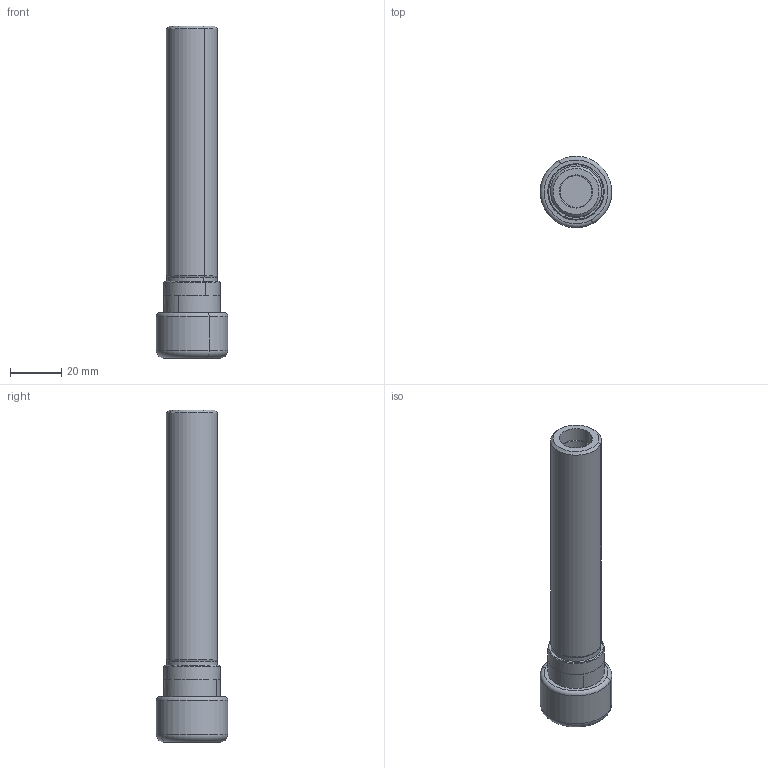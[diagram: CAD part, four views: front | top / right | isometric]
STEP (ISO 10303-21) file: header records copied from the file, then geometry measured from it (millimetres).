
FILE_DESCRIPTION(('CATIA V5 STEP','CAx-IF Rec.Pracs.--- Model Styling and Organization---1.2---2011-12-15'),'2;1');
FILE_NAME('\\nas01\drv1\utils\eitdev\rte\eit\transmagicconvert\db\out\635958952447655436\4502039 LM.stp','2016-04-10T11:27:39+00:00',('none'),('none'),'CATIA Version 5 Release 21 SP 5 (IN-10)','CATIA V5 STEP AP214','none');
FILE_SCHEMA(('AUTOMOTIVE_DESIGN { 1 0 10303 214 1 1 1 1 }'));
Length unit declared in the file: millimetre
Products named in the file (1): ST 20X100 ER16 F
Bounding box: 27.99 x 27.99 x 130 mm (x, y, z)
Volume: 39316 mm3; surface area: 11912 mm2
Topology: 1 solids, 1 shells, 44 faces, 89 edges, 52 vertices
Faces by surface type: cylinder 18, cone 11, plane 7, torus 6, extrusion 2
Entity records: 1167 total; most frequent: CARTESIAN_POINT 309, ORIENTED_EDGE 178, DIRECTION 138, EDGE_CURVE 89, AXIS2_PLACEMENT_3D 78, VERTEX_POINT 52, CIRCLE 49, EDGE_LOOP 49
